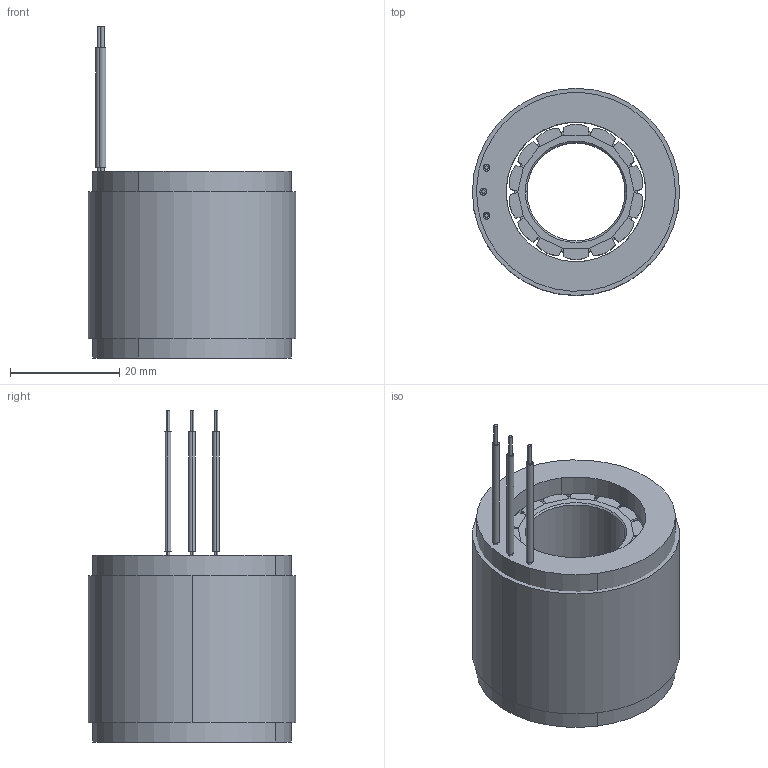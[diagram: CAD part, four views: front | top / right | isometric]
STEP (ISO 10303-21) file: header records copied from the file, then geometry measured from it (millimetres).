
FILE_DESCRIPTION (( 'STEP AP214' ), '1' );
FILE_NAME ('3834µç»ú-ÐÂ.STEP', '2025-02-20T03:39:00', ( '' ), ( '' ), 'SwSTEP 2.0', 'SolidWorks 2023', '' );
FILE_SCHEMA (( 'AUTOMOTIVE_DESIGN' ));
Length unit declared in the file: millimetre
Products named in the file (1): 3834电机-新
Bounding box: 38 x 38 x 60.9 mm (x, y, z)
Surface area: 17280.1 mm2 (no closed solid volume)
Topology: 0 solids, 22 shells, 107 faces, 574 edges, 480 vertices
Faces by surface type: plane 72, cylinder 31, cone 4
Entity records: 5663 total; most frequent: CARTESIAN_POINT 1162, DIRECTION 982, ORIENTED_EDGE 718, EDGE_CURVE 574, VERTEX_POINT 480, VECTOR 382, LINE 382, AXIS2_PLACEMENT_3D 300
